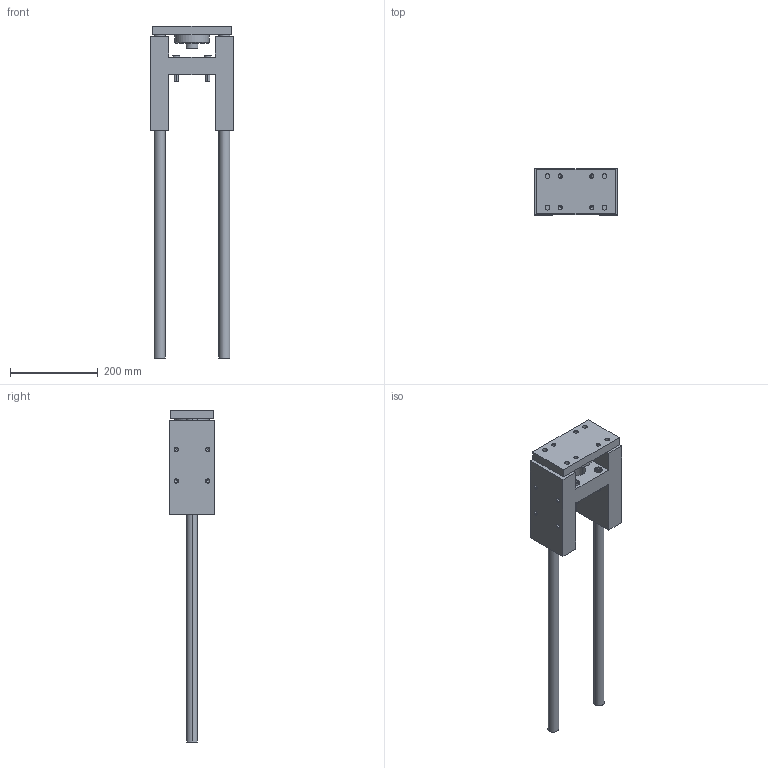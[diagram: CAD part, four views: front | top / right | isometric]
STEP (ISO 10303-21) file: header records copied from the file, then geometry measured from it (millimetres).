
FILE_DESCRIPTION (( 'STEP AP203' ), '1' );
FILE_NAME ('GB80-500.STEP', '2020-04-24T13:39:23', ( '' ), ( '' ), 'SwSTEP 2.0', 'SolidWorks 2019', '' );
FILE_SCHEMA (( 'CONFIG_CONTROL_DESIGN' ));
Length unit declared in the file: millimetre
Products named in the file (1): GB80-500
Bounding box: 189 x 105 x 758 mm (x, y, z)
Volume: 3187309.3 mm3; surface area: 398211.4 mm2
Topology: 6 solids, 6 shells, 329 faces, 728 edges, 412 vertices
Faces by surface type: cone 134, cylinder 98, plane 97
Entity records: 9631 total; most frequent: CARTESIAN_POINT 2242, DIRECTION 1662, ORIENTED_EDGE 1392, EDGE_CURVE 696, AXIS2_PLACEMENT_3D 664, VERTEX_POINT 412, EDGE_LOOP 392, LINE 334
